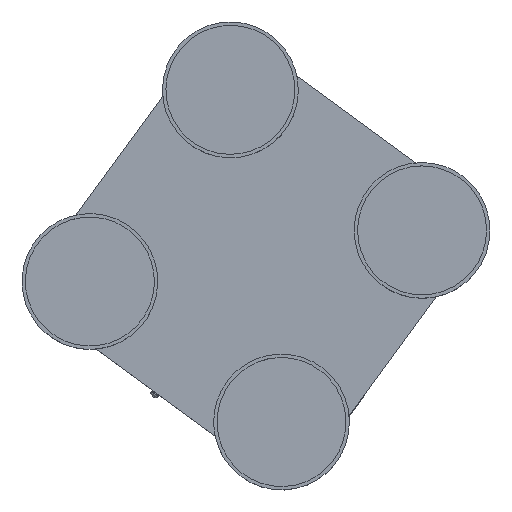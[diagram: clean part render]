
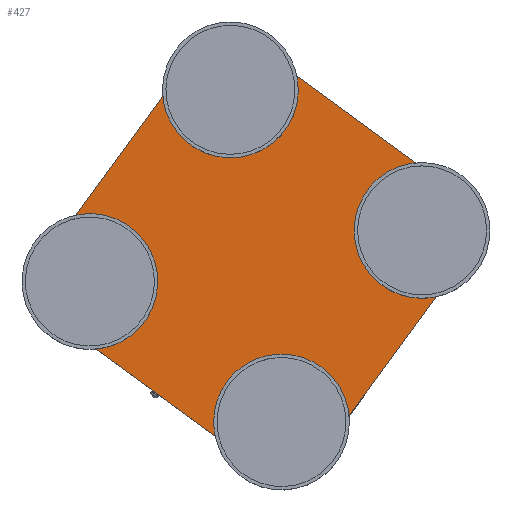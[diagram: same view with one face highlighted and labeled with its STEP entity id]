
A CAD part, top view. The second image highlights one B-rep face of the part: STEP entity #427.
In plain terms, the highlighted planar face has unit normal (0, 0, 1).
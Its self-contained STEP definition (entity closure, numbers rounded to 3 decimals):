
#40=LINE('',#760,#56);
#44=LINE('',#772,#60);
#48=LINE('',#784,#64);
#52=LINE('',#794,#68);
#56=VECTOR('',#600,10.);
#60=VECTOR('',#612,10.);
#64=VECTOR('',#624,10.);
#68=VECTOR('',#636,10.);
#78=PLANE('',#518);
#90=FACE_BOUND('',#165,.T.);
#91=FACE_BOUND('',#166,.T.);
#92=FACE_BOUND('',#167,.T.);
#93=FACE_BOUND('',#168,.T.);
#130=FACE_OUTER_BOUND('',#164,.T.);
#164=EDGE_LOOP('',(#345,#346,#347,#348,#349,#350,#351,#352));
#165=EDGE_LOOP('',(#353));
#166=EDGE_LOOP('',(#354));
#167=EDGE_LOOP('',(#355));
#168=EDGE_LOOP('',(#356));
#189=CIRCLE('',#488,5.);
#191=CIRCLE('',#492,5.);
#193=CIRCLE('',#496,5.);
#195=CIRCLE('',#500,5.);
#197=CIRCLE('',#504,20.);
#199=CIRCLE('',#508,20.);
#201=CIRCLE('',#512,20.);
#203=CIRCLE('',#516,20.);
#216=VERTEX_POINT('',#726);
#218=VERTEX_POINT('',#732);
#220=VERTEX_POINT('',#738);
#222=VERTEX_POINT('',#744);
#225=VERTEX_POINT('',#751);
#226=VERTEX_POINT('',#753);
#228=VERTEX_POINT('',#759);
#230=VERTEX_POINT('',#765);
#232=VERTEX_POINT('',#771);
#234=VERTEX_POINT('',#777);
#236=VERTEX_POINT('',#783);
#238=VERTEX_POINT('',#789);
#252=EDGE_CURVE('',#216,#216,#189,.T.);
#254=EDGE_CURVE('',#218,#218,#191,.T.);
#256=EDGE_CURVE('',#220,#220,#193,.T.);
#258=EDGE_CURVE('',#222,#222,#195,.T.);
#261=EDGE_CURVE('',#226,#225,#197,.T.);
#264=EDGE_CURVE('',#228,#226,#40,.T.);
#267=EDGE_CURVE('',#230,#228,#199,.T.);
#270=EDGE_CURVE('',#232,#230,#44,.T.);
#273=EDGE_CURVE('',#234,#232,#201,.T.);
#276=EDGE_CURVE('',#236,#234,#48,.T.);
#279=EDGE_CURVE('',#238,#236,#203,.T.);
#282=EDGE_CURVE('',#225,#238,#52,.T.);
#345=ORIENTED_EDGE('',*,*,#282,.T.);
#346=ORIENTED_EDGE('',*,*,#279,.T.);
#347=ORIENTED_EDGE('',*,*,#276,.T.);
#348=ORIENTED_EDGE('',*,*,#273,.T.);
#349=ORIENTED_EDGE('',*,*,#270,.T.);
#350=ORIENTED_EDGE('',*,*,#267,.T.);
#351=ORIENTED_EDGE('',*,*,#264,.T.);
#352=ORIENTED_EDGE('',*,*,#261,.T.);
#353=ORIENTED_EDGE('',*,*,#252,.T.);
#354=ORIENTED_EDGE('',*,*,#254,.T.);
#355=ORIENTED_EDGE('',*,*,#256,.T.);
#356=ORIENTED_EDGE('',*,*,#258,.T.);
#427=ADVANCED_FACE('',(#130,#90,#91,#92,#93),#78,.T.);
#488=AXIS2_PLACEMENT_3D('',#727,#561,#562);
#492=AXIS2_PLACEMENT_3D('',#733,#569,#570);
#496=AXIS2_PLACEMENT_3D('',#739,#577,#578);
#500=AXIS2_PLACEMENT_3D('',#745,#585,#586);
#504=AXIS2_PLACEMENT_3D('',#754,#594,#595);
#508=AXIS2_PLACEMENT_3D('',#766,#606,#607);
#512=AXIS2_PLACEMENT_3D('',#778,#618,#619);
#516=AXIS2_PLACEMENT_3D('',#790,#630,#631);
#518=AXIS2_PLACEMENT_3D('',#795,#637,#638);
#561=DIRECTION('center_axis',(0.,0.,-1.));
#562=DIRECTION('ref_axis',(-1.,0.,0.));
#569=DIRECTION('center_axis',(0.,0.,-1.));
#570=DIRECTION('ref_axis',(-1.,0.,0.));
#577=DIRECTION('center_axis',(0.,0.,-1.));
#578=DIRECTION('ref_axis',(-1.,0.,0.));
#585=DIRECTION('center_axis',(0.,0.,-1.));
#586=DIRECTION('ref_axis',(-1.,0.,0.));
#594=DIRECTION('center_axis',(0.,0.,1.));
#595=DIRECTION('ref_axis',(0.,1.,0.));
#600=DIRECTION('',(-1.,0.,0.));
#606=DIRECTION('center_axis',(0.,0.,1.));
#607=DIRECTION('ref_axis',(1.,0.,0.));
#612=DIRECTION('',(0.,1.,0.));
#618=DIRECTION('center_axis',(0.,0.,1.));
#619=DIRECTION('ref_axis',(0.,-1.,0.));
#624=DIRECTION('',(1.,0.,0.));
#630=DIRECTION('center_axis',(0.,0.,1.));
#631=DIRECTION('ref_axis',(-1.,0.,0.));
#636=DIRECTION('',(0.,-1.,0.));
#637=DIRECTION('center_axis',(0.,0.,1.));
#638=DIRECTION('ref_axis',(1.,0.,0.));
#726=CARTESIAN_POINT('',(-65.,-70.,15.));
#727=CARTESIAN_POINT('Origin',(-70.,-70.,15.));
#732=CARTESIAN_POINT('',(-65.,70.,15.));
#733=CARTESIAN_POINT('Origin',(-70.,70.,15.));
#738=CARTESIAN_POINT('',(75.,70.,15.));
#739=CARTESIAN_POINT('Origin',(70.,70.,15.));
#744=CARTESIAN_POINT('',(75.,-70.,15.));
#745=CARTESIAN_POINT('Origin',(70.,-70.,15.));
#751=CARTESIAN_POINT('',(-100.,80.,15.));
#753=CARTESIAN_POINT('',(-80.,100.,15.));
#754=CARTESIAN_POINT('Origin',(-80.,80.,15.));
#759=CARTESIAN_POINT('',(80.,100.,15.));
#760=CARTESIAN_POINT('',(80.,100.,15.));
#765=CARTESIAN_POINT('',(100.,80.,15.));
#766=CARTESIAN_POINT('Origin',(80.,80.,15.));
#771=CARTESIAN_POINT('',(100.,-80.,15.));
#772=CARTESIAN_POINT('',(100.,-80.,15.));
#777=CARTESIAN_POINT('',(80.,-100.,15.));
#778=CARTESIAN_POINT('Origin',(80.,-80.,15.));
#783=CARTESIAN_POINT('',(-80.,-100.,15.));
#784=CARTESIAN_POINT('',(-80.,-100.,15.));
#789=CARTESIAN_POINT('',(-100.,-80.,15.));
#790=CARTESIAN_POINT('Origin',(-80.,-80.,15.));
#794=CARTESIAN_POINT('',(-100.,80.,15.));
#795=CARTESIAN_POINT('Origin',(0.,0.,
15.));
